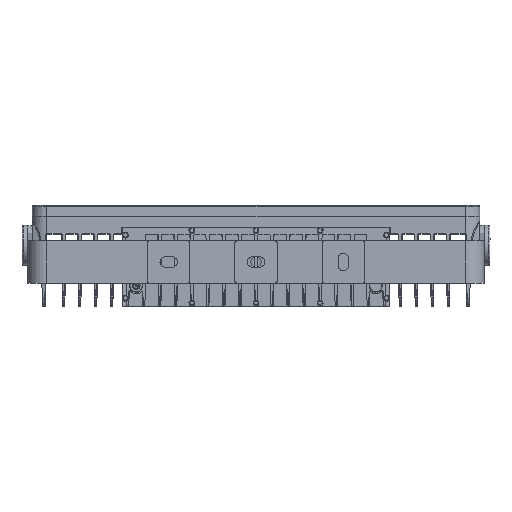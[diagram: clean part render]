
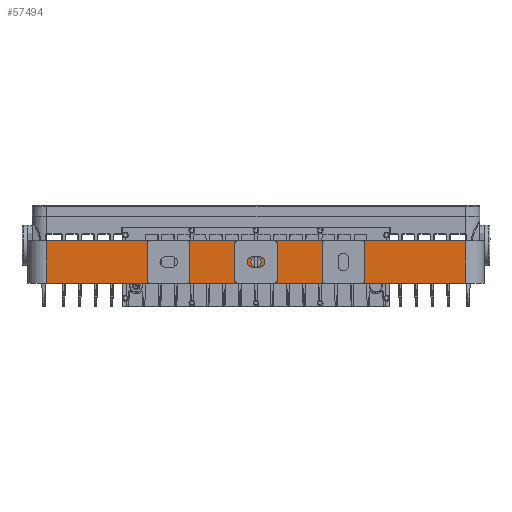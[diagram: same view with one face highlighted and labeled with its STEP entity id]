
A CAD part, front view. The second image highlights one B-rep face of the part: STEP entity #57494.
In plain terms, the highlighted planar face has unit normal (0, -1, 0).
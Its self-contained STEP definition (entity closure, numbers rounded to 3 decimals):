
#404 = CARTESIAN_POINT ( 'NONE',  ( -125., 0., 7. ) ) ;
#862 = EDGE_CURVE ( 'NONE', #124681, #119047, #93776, .T. ) ;
#878 = ORIENTED_EDGE ( 'NONE', *, *, #146888, .F. ) ;
#1394 = DIRECTION ( 'NONE',  ( -1., 0., 0. ) ) ;
#3445 = DIRECTION ( 'NONE',  ( 0., -1., 0. ) ) ;
#5352 = CARTESIAN_POINT ( 'NONE',  ( 127., 0., 5. ) ) ;
#5560 = DIRECTION ( 'NONE',  ( 0., -1., 0. ) ) ;
#6061 = EDGE_CURVE ( 'NONE', #8657, #8657, #83504, .T. ) ;
#8657 = VERTEX_POINT ( 'NONE', #34432 ) ;
#8794 = FACE_BOUND ( 'NONE', #147920, .T. ) ;
#10917 = EDGE_LOOP ( 'NONE', ( #119780, #126960, #69314, #25625 ) ) ;
#12586 = CARTESIAN_POINT ( 'NONE',  ( 113., 0., 5. ) ) ;
#12892 = DIRECTION ( 'NONE',  ( 0., 1., 0. ) ) ;
#12918 = EDGE_CURVE ( 'NONE', #96200, #122501, #111186, .T. ) ;
#14863 = DIRECTION ( 'NONE',  ( 0., 0., 1. ) ) ;
#15162 = CIRCLE ( 'NONE', #57713, 7. ) ;
#17917 = DIRECTION ( 'NONE',  ( 0., -1., 0. ) ) ;
#19063 = AXIS2_PLACEMENT_3D ( 'NONE', #126088, #12892, #87843 ) ;
#19954 = VECTOR ( 'NONE', #111160, 1000. ) ;
#21507 = EDGE_CURVE ( 'NONE', #56011, #118407, #118839, .T. ) ;
#22924 = DIRECTION ( 'NONE',  ( 1., 0., 0. ) ) ;
#25625 = ORIENTED_EDGE ( 'NONE', *, *, #54269, .F. ) ;
#25693 = EDGE_LOOP ( 'NONE', ( #75098 ) ) ;
#25705 = CARTESIAN_POINT ( 'NONE',  ( 127., 0., -5. ) ) ;
#29775 = DIRECTION ( 'NONE',  ( 0., 0., -1. ) ) ;
#32115 = PLANE ( 'NONE',  #19063 ) ;
#34432 = CARTESIAN_POINT ( 'NONE',  ( -7., 0., 0. ) ) ;
#35245 = AXIS2_PLACEMENT_3D ( 'NONE', #93022, #5560, #105469 ) ;
#35769 = DIRECTION ( 'NONE',  ( -1., 0., 0. ) ) ;
#42322 = DIRECTION ( 'NONE',  ( -1., 0., 0. ) ) ;
#47436 = LINE ( 'NONE', #123970, #70055 ) ;
#49331 = EDGE_CURVE ( 'NONE', #161185, #133884, #127742, .T. ) ;
#51207 = DIRECTION ( 'NONE',  ( -1., 0., 0. ) ) ;
#51887 = ORIENTED_EDGE ( 'NONE', *, *, #49331, .F. ) ;
#53138 = ORIENTED_EDGE ( 'NONE', *, *, #12918, .F. ) ;
#54269 = EDGE_CURVE ( 'NONE', #119047, #152974, #128895, .T. ) ;
#56011 = VERTEX_POINT ( 'NONE', #112535 ) ;
#57494 = ADVANCED_FACE ( 'NONE', ( #8794, #95406, #59588, #146118 ), #32115, .F. ) ;
#57713 = AXIS2_PLACEMENT_3D ( 'NONE', #78434, #66744, #129181 ) ;
#59588 = FACE_BOUND ( 'NONE', #25693, .T. ) ;
#64471 = EDGE_CURVE ( 'NONE', #133884, #96200, #163121, .T. ) ;
#65455 = DIRECTION ( 'NONE',  ( -1., 0., 0. ) ) ;
#66744 = DIRECTION ( 'NONE',  ( 0., -1., 0. ) ) ;
#67878 = CARTESIAN_POINT ( 'NONE',  ( -115., 0., 0. ) ) ;
#68889 = CARTESIAN_POINT ( 'NONE',  ( -287.5, 0., 871.748 ) ) ;
#69314 = ORIENTED_EDGE ( 'NONE', *, *, #102669, .F. ) ;
#70055 = VECTOR ( 'NONE', #137257, 1000. ) ;
#71323 = CARTESIAN_POINT ( 'NONE',  ( 113., 0., -5. ) ) ;
#71828 = DIRECTION ( 'NONE',  ( 0., 0., -1. ) ) ;
#75098 = ORIENTED_EDGE ( 'NONE', *, *, #6061, .F. ) ;
#76914 = CARTESIAN_POINT ( 'NONE',  ( -125., 0., -7. ) ) ;
#78191 = AXIS2_PLACEMENT_3D ( 'NONE', #89657, #154464, #1394 ) ;
#78434 = CARTESIAN_POINT ( 'NONE',  ( 120., 0., 5. ) ) ;
#78987 = EDGE_CURVE ( 'NONE', #122501, #161185, #99991, .T. ) ;
#80082 = VECTOR ( 'NONE', #51207, 1000. ) ;
#81339 = AXIS2_PLACEMENT_3D ( 'NONE', #67878, #17917, #65455 ) ;
#83504 = CIRCLE ( 'NONE', #78191, 7. ) ;
#87043 = CARTESIAN_POINT ( 'NONE',  ( 287.5, 0., 871.748 ) ) ;
#87843 = DIRECTION ( 'NONE',  ( -1., 0., 0. ) ) ;
#89405 = EDGE_CURVE ( 'NONE', #56011, #162054, #47436, .T. ) ;
#89657 = CARTESIAN_POINT ( 'NONE',  ( 0., 0., 0. ) ) ;
#93022 = CARTESIAN_POINT ( 'NONE',  ( 120., 0., -5. ) ) ;
#93776 = CIRCLE ( 'NONE', #35245, 7. ) ;
#95406 = FACE_BOUND ( 'NONE', #10917, .T. ) ;
#95605 = VERTEX_POINT ( 'NONE', #12586 ) ;
#96200 = VERTEX_POINT ( 'NONE', #76914 ) ;
#97653 = LINE ( 'NONE', #123419, #163295 ) ;
#99991 = CIRCLE ( 'NONE', #81339, 7. ) ;
#100254 = VECTOR ( 'NONE', #29775, 1000. ) ;
#101761 = EDGE_LOOP ( 'NONE', ( #131947, #124907, #878, #104609 ) ) ;
#102669 = EDGE_CURVE ( 'NONE', #152974, #95605, #15162, .T. ) ;
#102853 = CARTESIAN_POINT ( 'NONE',  ( 127., 0., -5. ) ) ;
#104609 = ORIENTED_EDGE ( 'NONE', *, *, #135040, .F. ) ;
#105469 = DIRECTION ( 'NONE',  ( -1., 0., 0. ) ) ;
#107967 = VERTEX_POINT ( 'NONE', #157535 ) ;
#111160 = DIRECTION ( 'NONE',  ( 0., 0., -1. ) ) ;
#111186 = LINE ( 'NONE', #160268, #126644 ) ;
#112535 = CARTESIAN_POINT ( 'NONE',  ( -287.5, 0., 29. ) ) ;
#115766 = ORIENTED_EDGE ( 'NONE', *, *, #78987, .F. ) ;
#117269 = VECTOR ( 'NONE', #42322, 1000. ) ;
#118407 = VERTEX_POINT ( 'NONE', #161318 ) ;
#118839 = LINE ( 'NONE', #68889, #100254 ) ;
#119047 = VERTEX_POINT ( 'NONE', #102853 ) ;
#119366 = CARTESIAN_POINT ( 'NONE',  ( -115., 0., 7. ) ) ;
#119780 = ORIENTED_EDGE ( 'NONE', *, *, #862, .F. ) ;
#122501 = VERTEX_POINT ( 'NONE', #151665 ) ;
#123419 = CARTESIAN_POINT ( 'NONE',  ( 113., 0., -5. ) ) ;
#123970 = CARTESIAN_POINT ( 'NONE',  ( 378.6, 0., 29. ) ) ;
#124681 = VERTEX_POINT ( 'NONE', #71323 ) ;
#124907 = ORIENTED_EDGE ( 'NONE', *, *, #21507, .T. ) ;
#126088 = CARTESIAN_POINT ( 'NONE',  ( -287.5, 0., 871.748 ) ) ;
#126644 = VECTOR ( 'NONE', #22924, 1000. ) ;
#126960 = ORIENTED_EDGE ( 'NONE', *, *, #127488, .F. ) ;
#127488 = EDGE_CURVE ( 'NONE', #95605, #124681, #97653, .T. ) ;
#127742 = LINE ( 'NONE', #404, #80082 ) ;
#128895 = LINE ( 'NONE', #25705, #146522 ) ;
#129181 = DIRECTION ( 'NONE',  ( -1., 0., 0. ) ) ;
#131947 = ORIENTED_EDGE ( 'NONE', *, *, #89405, .F. ) ;
#133884 = VERTEX_POINT ( 'NONE', #140406 ) ;
#133959 = AXIS2_PLACEMENT_3D ( 'NONE', #146477, #3445, #35769 ) ;
#135040 = EDGE_CURVE ( 'NONE', #162054, #107967, #147780, .T. ) ;
#137257 = DIRECTION ( 'NONE',  ( 1., 0., 0. ) ) ;
#140406 = CARTESIAN_POINT ( 'NONE',  ( -125., 0., 7. ) ) ;
#141074 = CARTESIAN_POINT ( 'NONE',  ( 287.5, 0., 29. ) ) ;
#146118 = FACE_OUTER_BOUND ( 'NONE', #101761, .T. ) ;
#146477 = CARTESIAN_POINT ( 'NONE',  ( -125., 0., 0. ) ) ;
#146522 = VECTOR ( 'NONE', #14863, 1000. ) ;
#146888 = EDGE_CURVE ( 'NONE', #107967, #118407, #156295, .T. ) ;
#147780 = LINE ( 'NONE', #87043, #19954 ) ;
#147920 = EDGE_LOOP ( 'NONE', ( #150470, #51887, #115766, #53138 ) ) ;
#150470 = ORIENTED_EDGE ( 'NONE', *, *, #64471, .F. ) ;
#151665 = CARTESIAN_POINT ( 'NONE',  ( -115., 0., -7. ) ) ;
#152974 = VERTEX_POINT ( 'NONE', #5352 ) ;
#153861 = CARTESIAN_POINT ( 'NONE',  ( 378.6, 0., -29. ) ) ;
#154464 = DIRECTION ( 'NONE',  ( 0., -1., 0. ) ) ;
#156295 = LINE ( 'NONE', #153861, #117269 ) ;
#157535 = CARTESIAN_POINT ( 'NONE',  ( 287.5, 0., -29. ) ) ;
#160268 = CARTESIAN_POINT ( 'NONE',  ( -125., 0., -7. ) ) ;
#161185 = VERTEX_POINT ( 'NONE', #119366 ) ;
#161318 = CARTESIAN_POINT ( 'NONE',  ( -287.5, 0., -29. ) ) ;
#162054 = VERTEX_POINT ( 'NONE', #141074 ) ;
#163121 = CIRCLE ( 'NONE', #133959, 7. ) ;
#163295 = VECTOR ( 'NONE', #71828, 1000. ) ;
